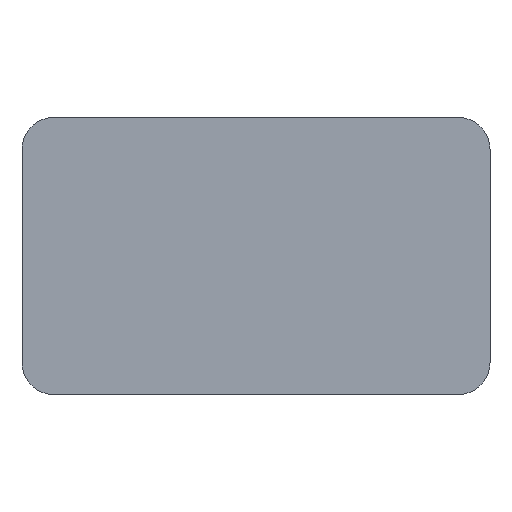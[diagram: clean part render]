
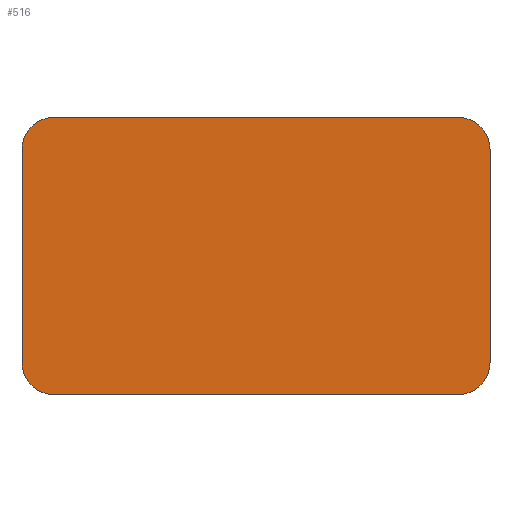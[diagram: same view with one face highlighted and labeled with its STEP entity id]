
A CAD part, front view. The second image highlights one B-rep face of the part: STEP entity #516.
In plain terms, the highlighted planar face has unit normal (0, -1, 0).
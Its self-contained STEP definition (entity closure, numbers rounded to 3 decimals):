
#170=DIRECTION('',(1.,0.,0.));
#171=VECTOR('',#170,63.5);
#172=CARTESIAN_POINT('',(-31.75,-490.,-21.75));
#173=LINE('',#172,#171);
#178=CARTESIAN_POINT('',(-31.75,-490.,-16.75));
#179=DIRECTION('',(0.,-1.,0.));
#180=DIRECTION('',(-1.,0.,0.));
#181=AXIS2_PLACEMENT_3D('',#178,#179,#180);
#187=DIRECTION('',(0.,0.,-1.));
#188=VECTOR('',#187,33.5);
#189=CARTESIAN_POINT('',(-36.75,-490.,16.75));
#190=LINE('',#189,#188);
#195=CARTESIAN_POINT('',(-31.75,-490.,16.75));
#196=DIRECTION('',(0.,-1.,0.));
#197=DIRECTION('',(0.,0.,1.));
#198=AXIS2_PLACEMENT_3D('',#195,#196,#197);
#204=DIRECTION('',(-1.,0.,0.));
#205=VECTOR('',#204,63.5);
#206=CARTESIAN_POINT('',(31.75,-490.,21.75));
#207=LINE('',#206,#205);
#212=CARTESIAN_POINT('',(31.75,-490.,16.75));
#213=DIRECTION('',(0.,-1.,0.));
#214=DIRECTION('',(1.,0.,0.));
#215=AXIS2_PLACEMENT_3D('',#212,#213,#214);
#221=DIRECTION('',(0.,0.,1.));
#222=VECTOR('',#221,33.5);
#223=CARTESIAN_POINT('',(36.75,-490.,-16.75));
#224=LINE('',#223,#222);
#229=CARTESIAN_POINT('',(31.75,-490.,-16.75));
#230=DIRECTION('',(0.,-1.,0.));
#231=DIRECTION('',(0.,0.,-1.));
#232=AXIS2_PLACEMENT_3D('',#229,#230,#231);
#342=CARTESIAN_POINT('',(-31.75,-490.,21.75));
#343=CARTESIAN_POINT('',(-36.75,-490.,16.75));
#344=VERTEX_POINT('',#342);
#345=VERTEX_POINT('',#343);
#346=CARTESIAN_POINT('',(-36.75,-490.,-16.75));
#347=VERTEX_POINT('',#346);
#348=CARTESIAN_POINT('',(-31.75,-490.,-21.75));
#349=VERTEX_POINT('',#348);
#350=CARTESIAN_POINT('',(31.75,-490.,-21.75));
#351=CARTESIAN_POINT('',(36.75,-490.,-16.75));
#352=VERTEX_POINT('',#350);
#353=VERTEX_POINT('',#351);
#354=CARTESIAN_POINT('',(36.75,-490.,16.75));
#355=VERTEX_POINT('',#354);
#356=CARTESIAN_POINT('',(31.75,-490.,21.75));
#357=VERTEX_POINT('',#356);
#494=CARTESIAN_POINT('',(0.,-490.,0.));
#495=DIRECTION('',(0.,1.,0.));
#496=DIRECTION('',(0.,0.,1.));
#497=AXIS2_PLACEMENT_3D('',#494,#495,#496);
#498=PLANE('',#497);
#499=ORIENTED_EDGE('',*,*,#484,.F.);
#501=ORIENTED_EDGE('',*,*,#500,.F.);
#503=ORIENTED_EDGE('',*,*,#502,.F.);
#505=ORIENTED_EDGE('',*,*,#504,.F.);
#507=ORIENTED_EDGE('',*,*,#506,.F.);
#509=ORIENTED_EDGE('',*,*,#508,.F.);
#511=ORIENTED_EDGE('',*,*,#510,.F.);
#513=ORIENTED_EDGE('',*,*,#512,.F.);
#514=EDGE_LOOP('',(#499,#501,#503,#505,#507,#509,#511,#513));
#515=FACE_OUTER_BOUND('',#514,.F.);
#182=CIRCLE('',#181,5.);
#199=CIRCLE('',#198,5.);
#216=CIRCLE('',#215,5.);
#233=CIRCLE('',#232,5.);
#484=EDGE_CURVE('',#349,#352,#173,.T.);
#500=EDGE_CURVE('',#347,#349,#182,.T.);
#502=EDGE_CURVE('',#345,#347,#190,.T.);
#504=EDGE_CURVE('',#344,#345,#199,.T.);
#506=EDGE_CURVE('',#357,#344,#207,.T.);
#508=EDGE_CURVE('',#355,#357,#216,.T.);
#510=EDGE_CURVE('',#353,#355,#224,.T.);
#512=EDGE_CURVE('',#352,#353,#233,.T.);
#516=ADVANCED_FACE('',(#515),#498,.F.);
